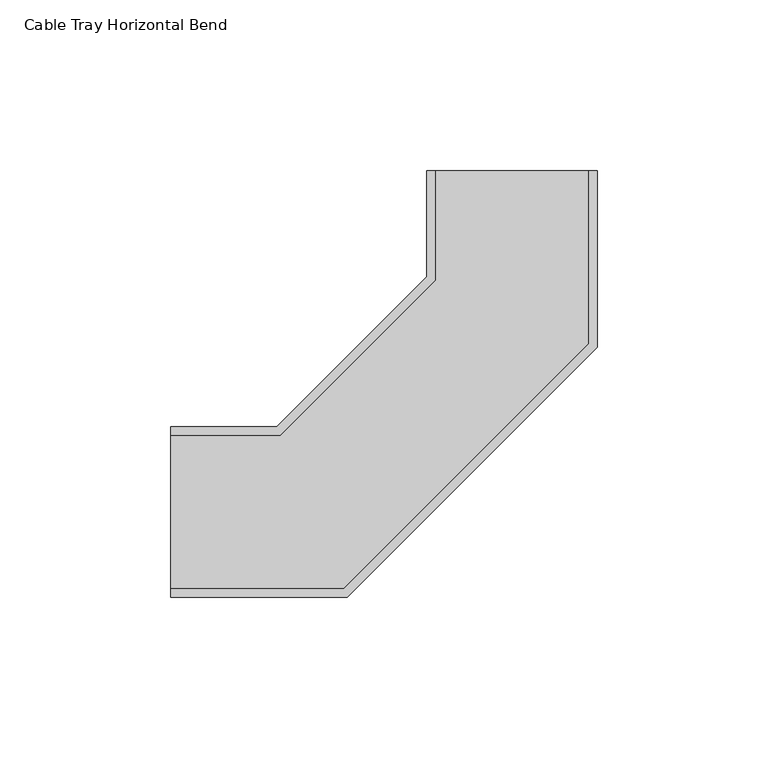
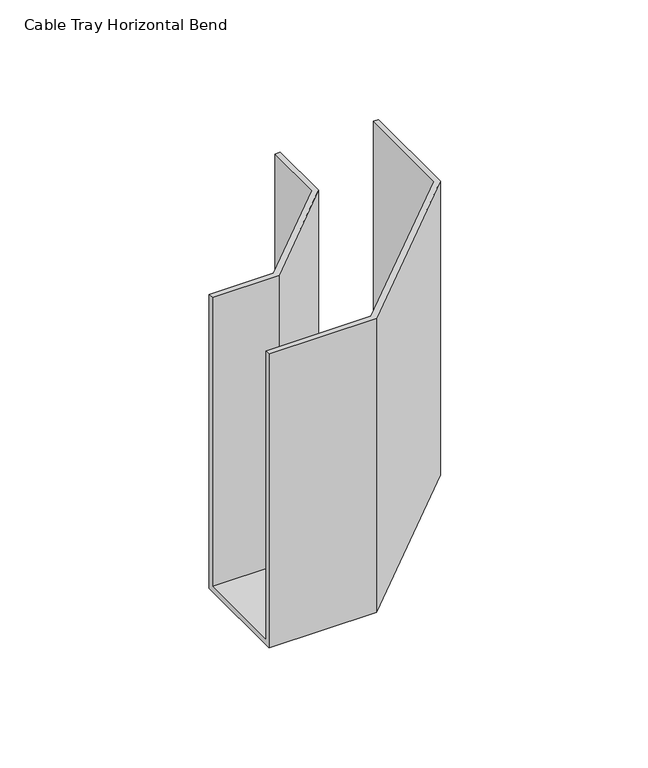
"""IFC4 building model written with IfcOpenShell, lengths in millimetres: cable carrier fitting geometry, Cable Tray Horizontal Bend : ELEC_ELV_CT_N2402."""

from ifc_helpers import new_model, si_unit, origin, place, context, project, spatial, faceted_brep, source, transform, mapped, element, save


def cable_tray_horizontal_bend_ade5ac02(model_context):
    return source(origin(), model_context, "Body", "Brep", [
        faceted_brep([(-100.0, -25.0, -75.0), (-100.0, -25.0, 75.0), (-100.0, -22.46, 75.0), (-100.0, -22.46, -72.46), (-100.0, 22.46, -72.46), (-100.0, 22.46, 75.0), (-100.0, 25.0, 75.0), (-100.0, 25.0, -75.0), (25.0, 100.0, -75.0), (-25.0, 100.0, -75.0), (-25.0, 100.0, 75.0), (-22.46, 100.0, 75.0), (-22.46, 100.0, -72.46), (22.46, 100.0, -72.46), (22.46, 100.0, 75.0), (25.0, 100.0, 75.0), (-48.2233047, -25.0, -75.0), (-48.2233047, -25.0, 75.0), (25.0, 48.2233047, 75.0), (22.46, 49.2754071, 75.0), (-49.2754071, -22.46, 75.0), (-49.2754071, -22.46, -72.46), (22.46, 49.2754071, -72.46), (-22.46, 67.8818804, -72.46), (-67.8818804, 22.46, -72.46), (-67.8818804, 22.46, 75.0), (-22.46, 67.8818804, 75.0), (-25.0, 68.9339828, 75.0), (-68.9339828, 25.0, 75.0), (-68.9339828, 25.0, -75.0), (-25.0, 68.9339828, -75.0), (25.0, 48.2233047, -75.0)], [[[0, 1, 2, 3, 4, 5, 6, 7]], [[8, 9, 10, 11, 12, 13, 14, 15]], [[1, 0, 16, 17]], [[2, 1, 17, 18, 15, 14, 19, 20]], [[3, 2, 20, 21]], [[4, 3, 21, 22, 13, 12, 23, 24]], [[5, 4, 24, 25]], [[6, 5, 25, 26, 11, 10, 27, 28]], [[7, 6, 28, 29]], [[0, 7, 29, 30, 9, 8, 31, 16]], [[17, 16, 31, 18]], [[21, 20, 19, 22]], [[25, 24, 23, 26]], [[29, 28, 27, 30]], [[18, 31, 8, 15]], [[22, 19, 14, 13]], [[26, 23, 12, 11]], [[30, 27, 10, 9]]]),
    ])


if __name__ == "__main__":
    model = new_model("IFC4")
    model_context = context("Model", 3, world=origin())
    ifc_project = project(units=[si_unit("LENGTHUNIT", "METRE", prefix="MILLI")], contexts=[model_context])
    site = spatial("IfcSite", under=ifc_project)
    building = spatial("IfcBuilding", under=site)
    placement = place(None, origin())
    cable_tray_horizontal_bend_shape = cable_tray_horizontal_bend_ade5ac02(model_context)
    element("IfcCableCarrierFitting", 1, ObjectType="Cable Tray Horizontal Bend : ELEC_ELV_CT_N2402", at=placement, inside=building, context=model_context, shape_type="MappedRepresentation", body=[
        mapped(cable_tray_horizontal_bend_shape, transform((0.0, 0.0, 0.0), x_axis=(1.0, 0.0, 0.0), y_axis=(0.0, 1.0, 0.0), z_axis=(0.0, 0.0, 1.0))),
    ])
    save(model, "model.ifc")
